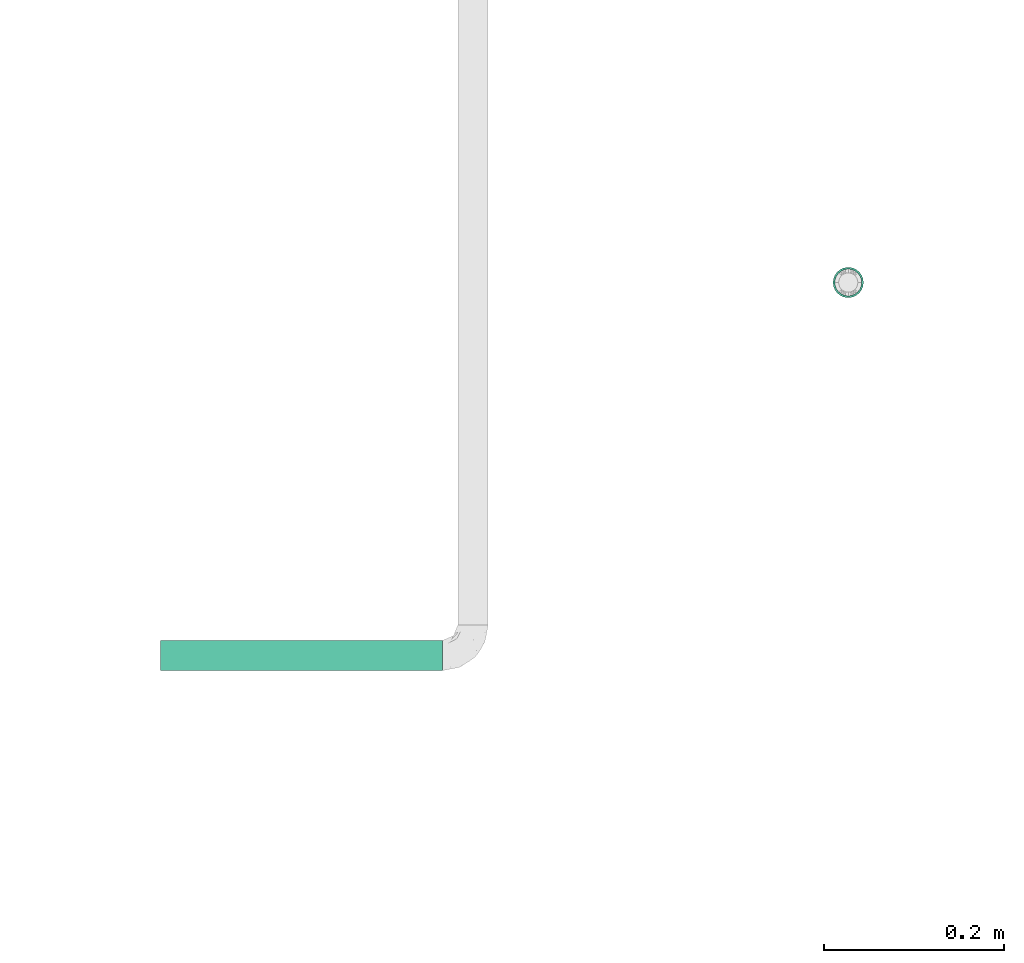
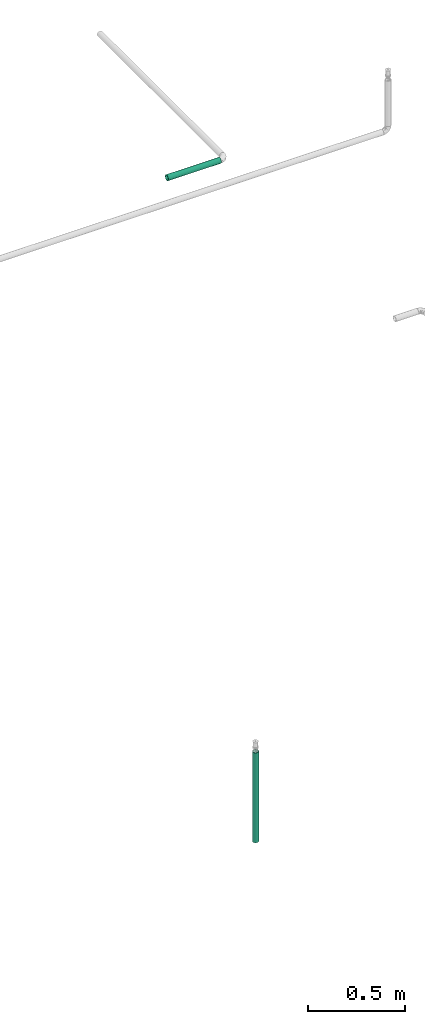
# One storey, part 13 of 63: 2 flow segments.
"""IFC2X3 building model written with IfcOpenShell, lengths in millimetres."""

from ifc_helpers import new_model, entity, si_unit, converted_unit, derived_unit, direction, frame, origin_with_axes, origin_2d_with_axis, place, context, subcontext, project, spatial, hollow_circle, extrude, source, transform, mapped, type_object, element, save


model = new_model("IFC2X3")

# Units and contexts
model_context = context("Model", 3, precision=0.01, world=frame((0.0, 4.29681676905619e-09, 0.0)), true_north=direction((4.01073788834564e-13, 1.0)))
plan_context = context("Plan", 3, precision=0.01, world=frame((0.0, 4.29681676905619e-09, 0.0)), true_north=direction((4.01073788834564e-13, 1.0)))
body_context = subcontext(model_context, "Body", "Model", "MODEL_VIEW")
ifc_project = project(units=[converted_unit("PLANEANGLEUNIT", "DEGREE", entity("IfcPositiveLengthMeasure", 0.0174532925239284), si_unit("PLANEANGLEUNIT", "RADIAN"), dimensions=[0, 0, 0, 0, 0, 0, 0]), si_unit("AREAUNIT", "SQUARE_METRE"), si_unit("LENGTHUNIT", "METRE", prefix="MILLI"), si_unit("MASSUNIT", "GRAM", prefix="KILO"), si_unit("POWERUNIT", "WATT"), si_unit("PRESSUREUNIT", "PASCAL", prefix="KILO"), si_unit("FORCEUNIT", "NEWTON", prefix="KILO"), si_unit("ELECTRICVOLTAGEUNIT", "VOLT"), si_unit("ELECTRICCURRENTUNIT", "AMPERE"), si_unit("THERMODYNAMICTEMPERATUREUNIT", "DEGREE_CELSIUS"), si_unit("TIMEUNIT", "SECOND"), si_unit("VOLUMEUNIT", "CUBIC_METRE"), derived_unit("LINEARVELOCITYUNIT", [(si_unit("LENGTHUNIT", "METRE"), 1), (si_unit("TIMEUNIT", "SECOND"), -1)]), derived_unit("VOLUMETRICFLOWRATEUNIT", [(si_unit("VOLUMEUNIT", "CUBIC_METRE"), 1), (si_unit("TIMEUNIT", "SECOND"), -1)]), derived_unit("THERMALTRANSMITTANCEUNIT", [(si_unit("POWERUNIT", "WATT"), 1), (si_unit("THERMODYNAMICTEMPERATUREUNIT", "KELVIN"), -1), (si_unit("AREAUNIT", "SQUARE_METRE"), -1)]), derived_unit("SOUNDPRESSUREUNIT", [(si_unit("PRESSUREUNIT", "PASCAL"), 1)])], contexts=[model_context, plan_context])

# Site, building, storey
site_placement = place(None, frame((0.0, -4.29681676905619e-09, 0.0), z_axis=(0.0, 0.0, 1.0), x_axis=(1.0, 0.0, 0.0)))
site = spatial("IfcSite", under=ifc_project, at=site_placement, CompositionType="ELEMENT")
building_placement = place(site_placement, frame((0.0, 4.29681676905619e-09, 0.0), z_axis=(0.0, 0.0, 1.0), x_axis=(1.0, 0.0, 0.0)))
building = spatial("IfcBuilding", under=site, at=building_placement, Name="mc-building", CompositionType="ELEMENT")
storey_placement = place(building_placement, frame((0.0, 0.0, 207370.0), z_axis=(0.0, 0.0, 1.0), x_axis=(1.0, 0.0, 0.0)))
storey = spatial("IfcBuildingStorey", under=building, at=storey_placement, Name="Nivå E", CompositionType="ELEMENT", Elevation=207370.0)

# Flow segments
pipe_segment_type = type_object("IfcPipeSegmentType", Name="Stålrør normaltykke", PredefinedType="RIGIDSEGMENT")
shared_shape_1 = source(origin_with_axes(), body_context, "Body", "SweptSolid", [
    extrude(hollow_circle(Radius=16.9, WallThickness=2.0, at=origin_2d_with_axis()), frame((0.0, 0.0, 0.0), z_axis=(1.0, 0.0, 0.0), x_axis=(0.0, 1.0, 0.0)), (0.0, 0.0, 1.0), 563.0),
])
flow_segment_1_placement = place(storey_placement, frame((722417.8031, 441293.31989, 2455.35000000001), z_axis=(0.0, 1.0, 0.0), x_axis=(0.0, 0.0, 1.0)))
element("IfcFlowSegment", 1, at=flow_segment_1_placement, inside=storey, type_object=pipe_segment_type, Name="Stålrør normaltykke", context=body_context, shape_type="MappedRepresentation", body=[
    mapped(shared_shape_1, transform((0.0, 0.0, 0.0), scale=1.0)),
])
shared_shape_2 = source(origin_with_axes(), body_context, "Body", "SweptSolid", [
    extrude(hollow_circle(Radius=16.9, WallThickness=2.0, at=origin_2d_with_axis()), frame((0.0, 0.0, 0.0), z_axis=(1.0, 0.0, 0.0), x_axis=(0.0, 1.0, 0.0)), (0.0, 0.0, 1.0), 314.1),
])
flow_segment_2_placement = place(storey_placement, frame((721652.08055, 440878.08755, 7130.0), z_axis=(0.0, 0.0, 1.0), x_axis=(1.0, 0.0, 0.0)))
element("IfcFlowSegment", 2, at=flow_segment_2_placement, inside=storey, type_object=pipe_segment_type, Name="Stålrør normaltykke", context=body_context, shape_type="MappedRepresentation", body=[
    mapped(shared_shape_2, transform((0.0, 0.0, 0.0), scale=1.0)),
])

save(model, "model.ifc")
